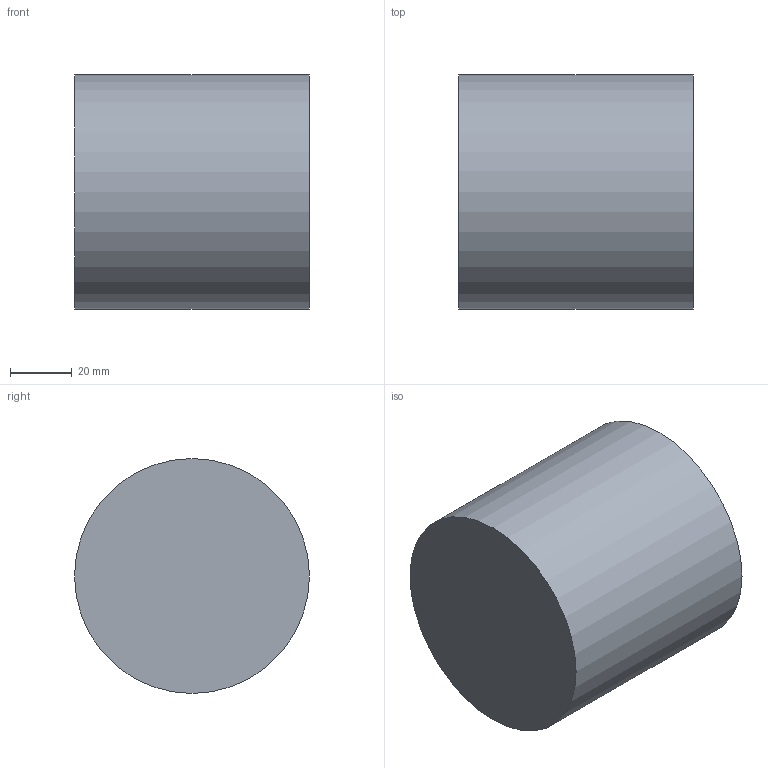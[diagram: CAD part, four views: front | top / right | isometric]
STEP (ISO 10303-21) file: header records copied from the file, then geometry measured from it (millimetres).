
FILE_DESCRIPTION(/* description */ (''),/* implementation_level */ '2;1');
FILE_NAME(/* name */ 'Endkappe 76.1.stp',/* time_stamp */ '2024-03-12T15:56:28+01:00',/* author */ ('peter.csaszar'),/* organization */ (''),/* preprocessor_version */ 'ST-DEVELOPER v20',/* originating_system */ 'Autodesk Inventor 2024',/* authorisation */ '');
FILE_SCHEMA (('AUTOMOTIVE_DESIGN { 1 0 10303 214 3 1 1 }'));
Length unit declared in the file: millimetre
Products named in the file (1): Bauteil1
Bounding box: 76 x 76.1 x 76.1 mm (x, y, z)
Volume: 43550 mm3; surface area: 44028.2 mm2
Topology: 1 solids, 1 shells, 5 faces, 6 edges, 4 vertices
Faces by surface type: plane 3, cylinder 2
Full cylindrical faces by diameter (mm): 72.1 x1, 76.1 x1
Entity records: 147 total; most frequent: DIRECTION 22, CARTESIAN_POINT 16, ORIENTED_EDGE 12, AXIS2_PLACEMENT_3D 10, EDGE_LOOP 6, EDGE_CURVE 6, FACE_OUTER_BOUND 5, ADVANCED_FACE 5
